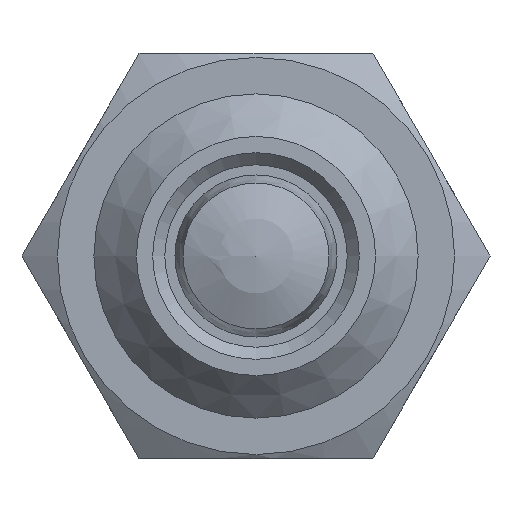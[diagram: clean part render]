
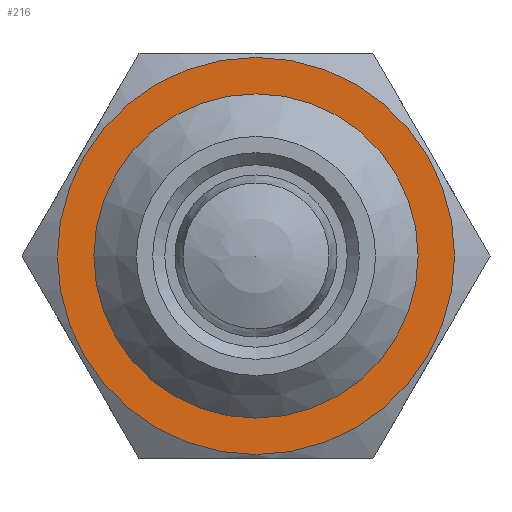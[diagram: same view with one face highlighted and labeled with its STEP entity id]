
A CAD part, front view. The second image highlights one B-rep face of the part: STEP entity #216.
In plain terms, the highlighted planar face has unit normal (0, -1, 0).
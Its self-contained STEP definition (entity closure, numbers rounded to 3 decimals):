
#216 = ADVANCED_FACE( '', ( #269, #270 ), #271, .F. );
#269 = FACE_BOUND( '', #368, .T. );
#270 = FACE_OUTER_BOUND( '', #369, .T. );
#271 = PLANE( '', #370 );
#368 = EDGE_LOOP( '', ( #503 ) );
#369 = EDGE_LOOP( '', ( #504 ) );
#370 = AXIS2_PLACEMENT_3D( '', #505, #506, #507 );
#503 = ORIENTED_EDGE( '', *, *, #658, .F. );
#504 = ORIENTED_EDGE( '', *, *, #643, .T. );
#505 = CARTESIAN_POINT( '', ( 4.9, 16., 0. ) );
#506 = DIRECTION( '', ( 0., 1., 0. ) );
#507 = DIRECTION( '', ( -1., 0., 0. ) );
#643 = EDGE_CURVE( '', #695, #695, #696, .T. );
#658 = EDGE_CURVE( '', #722, #722, #723, .T. );
#695 = VERTEX_POINT( '', #818 );
#696 = CIRCLE( '', #819, 4.9 );
#722 = VERTEX_POINT( '', #902 );
#723 = CIRCLE( '', #903, 3. );
#818 = CARTESIAN_POINT( '', ( 4.9, 16., 0. ) );
#819 = AXIS2_PLACEMENT_3D( '', #967, #968, #969 );
#902 = CARTESIAN_POINT( '', ( 3., 16., 0. ) );
#903 = AXIS2_PLACEMENT_3D( '', #988, #989, #990 );
#967 = CARTESIAN_POINT( '', ( 0., 16., 0. ) );
#968 = DIRECTION( '', ( 0., -1., 0. ) );
#969 = DIRECTION( '', ( 1., 0., 0. ) );
#988 = CARTESIAN_POINT( '', ( 0., 16., 0. ) );
#989 = DIRECTION( '', ( 0., -1., 0. ) );
#990 = DIRECTION( '', ( 1., 0., 0. ) );
